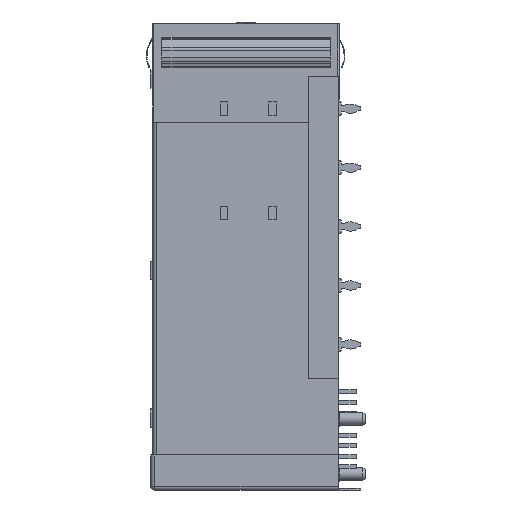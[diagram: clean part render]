
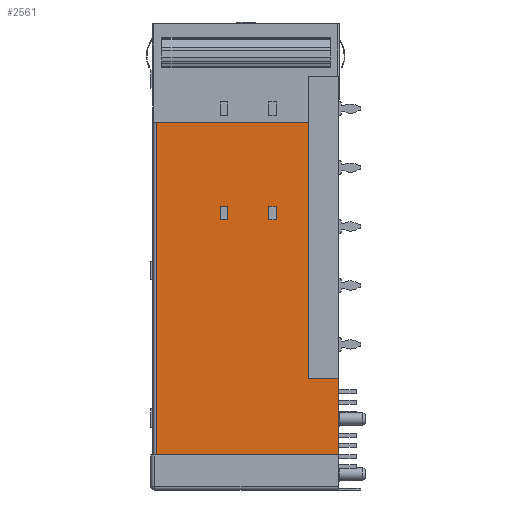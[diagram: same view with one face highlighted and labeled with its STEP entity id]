
A CAD part, left-side view. The second image highlights one B-rep face of the part: STEP entity #2561.
In plain terms, the highlighted planar face has unit normal (-1, 0, 0).
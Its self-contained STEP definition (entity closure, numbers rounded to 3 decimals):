
#634 = CARTESIAN_POINT ( 'NONE',  ( -21.5, 8.45, -24.8 ) ) ;
#1774 = ORIENTED_EDGE ( 'NONE', *, *, #22336, .T. ) ;
#2022 = EDGE_CURVE ( 'NONE', #36016, #33945, #20136, .T. ) ;
#2067 = EDGE_CURVE ( 'NONE', #29746, #41984, #7432, .T. ) ;
#2436 = EDGE_CURVE ( 'NONE', #50121, #36016, #53693, .T. ) ;
#2561 = ADVANCED_FACE ( 'NONE', ( #26103, #38871, #30809 ), #21440, .T. ) ;
#2937 = ORIENTED_EDGE ( 'NONE', *, *, #2067, .T. ) ;
#2948 = CARTESIAN_POINT ( 'NONE',  ( -21.5, 0., -63.25 ) ) ;
#3237 = CARTESIAN_POINT ( 'NONE',  ( -21.5, 4.1, -13.4 ) ) ;
#3588 = VERTEX_POINT ( 'NONE', #53776 ) ;
#5428 = CARTESIAN_POINT ( 'NONE',  ( -21.5, 9.45, -24.8 ) ) ;
#5451 = VERTEX_POINT ( 'NONE', #10644 ) ;
#5957 = CARTESIAN_POINT ( 'NONE',  ( -21.5, 9.45, -24.8 ) ) ;
#6202 = CARTESIAN_POINT ( 'NONE',  ( -21.5, 25.2, -58.5 ) ) ;
#6361 = DIRECTION ( 'NONE',  ( 0., 0., 1. ) ) ;
#7272 = DIRECTION ( 'NONE',  ( 0., 0., 1. ) ) ;
#7432 = LINE ( 'NONE', #34850, #48342 ) ;
#8641 = CARTESIAN_POINT ( 'NONE',  ( -21.5, 15., -24.8 ) ) ;
#10175 = VERTEX_POINT ( 'NONE', #54649 ) ;
#10644 = CARTESIAN_POINT ( 'NONE',  ( -21.5, 9.45, -26.6 ) ) ;
#10986 = EDGE_CURVE ( 'NONE', #26376, #29444, #46653, .T. ) ;
#10988 = CARTESIAN_POINT ( 'NONE',  ( -21.5, 15., -24.8 ) ) ;
#11019 = VERTEX_POINT ( 'NONE', #5428 ) ;
#11834 = AXIS2_PLACEMENT_3D ( 'NONE', #42476, #38534, #25573 ) ;
#12365 = DIRECTION ( 'NONE',  ( 0., -1., 0. ) ) ;
#12538 = DIRECTION ( 'NONE',  ( 0., 0., -1. ) ) ;
#13413 = EDGE_CURVE ( 'NONE', #33945, #51959, #38279, .T. ) ;
#14054 = VECTOR ( 'NONE', #12365, 1000. ) ;
#14774 = DIRECTION ( 'NONE',  ( 0., -1., 0. ) ) ;
#14868 = CARTESIAN_POINT ( 'NONE',  ( -21.5, 24.7, -58.5 ) ) ;
#15512 = VECTOR ( 'NONE', #14774, 1000. ) ;
#16361 = DIRECTION ( 'NONE',  ( 0., 0., 1. ) ) ;
#17318 = VECTOR ( 'NONE', #27051, 1000. ) ;
#17555 = CARTESIAN_POINT ( 'NONE',  ( -21.5, 24.7, -63.25 ) ) ;
#19316 = LINE ( 'NONE', #25251, #46733 ) ;
#19617 = CARTESIAN_POINT ( 'NONE',  ( -21.5, 16., -24.8 ) ) ;
#20136 = LINE ( 'NONE', #50783, #52373 ) ;
#21440 = PLANE ( 'NONE',  #11834 ) ;
#22336 = EDGE_CURVE ( 'NONE', #40830, #50121, #45703, .T. ) ;
#23094 = CARTESIAN_POINT ( 'NONE',  ( -21.5, 16., -24.8 ) ) ;
#23500 = EDGE_CURVE ( 'NONE', #54259, #3588, #44186, .T. ) ;
#24124 = ORIENTED_EDGE ( 'NONE', *, *, #10986, .T. ) ;
#25251 = CARTESIAN_POINT ( 'NONE',  ( -21.5, 9.45, -26.6 ) ) ;
#25573 = DIRECTION ( 'NONE',  ( 0., 0., 1. ) ) ;
#25882 = VECTOR ( 'NONE', #6361, 1000. ) ;
#26103 = FACE_BOUND ( 'NONE', #38751, .T. ) ;
#26376 = VERTEX_POINT ( 'NONE', #39324 ) ;
#26581 = DIRECTION ( 'NONE',  ( 0., 1., 0. ) ) ;
#26938 = CARTESIAN_POINT ( 'NONE',  ( -21.5, 0., -58.5 ) ) ;
#27020 = EDGE_LOOP ( 'NONE', ( #2937, #31762, #24124, #40532 ) ) ;
#27051 = DIRECTION ( 'NONE',  ( 0., 0., -1. ) ) ;
#28072 = CARTESIAN_POINT ( 'NONE',  ( -21.5, 4.1, -48.1 ) ) ;
#29444 = VERTEX_POINT ( 'NONE', #38161 ) ;
#29463 = ORIENTED_EDGE ( 'NONE', *, *, #51981, .F. ) ;
#29746 = VERTEX_POINT ( 'NONE', #23094 ) ;
#29967 = ORIENTED_EDGE ( 'NONE', *, *, #2022, .T. ) ;
#30088 = LINE ( 'NONE', #17555, #50231 ) ;
#30145 = DIRECTION ( 'NONE',  ( 0., -1., 0. ) ) ;
#30809 = FACE_OUTER_BOUND ( 'NONE', #35507, .T. ) ;
#30913 = CARTESIAN_POINT ( 'NONE',  ( -21.5, 16., -26.6 ) ) ;
#30956 = EDGE_CURVE ( 'NONE', #5451, #11019, #40190, .T. ) ;
#31762 = ORIENTED_EDGE ( 'NONE', *, *, #33099, .T. ) ;
#32065 = DIRECTION ( 'NONE',  ( 0., -1., 0. ) ) ;
#33099 = EDGE_CURVE ( 'NONE', #41984, #26376, #34743, .T. ) ;
#33354 = ORIENTED_EDGE ( 'NONE', *, *, #23500, .T. ) ;
#33945 = VERTEX_POINT ( 'NONE', #28072 ) ;
#34743 = LINE ( 'NONE', #8641, #55549 ) ;
#34810 = VECTOR ( 'NONE', #54116, 1000. ) ;
#34850 = CARTESIAN_POINT ( 'NONE',  ( -21.5, 16., -24.8 ) ) ;
#35190 = LINE ( 'NONE', #40316, #41210 ) ;
#35507 = EDGE_LOOP ( 'NONE', ( #29463, #54457, #1774, #44948, #29967, #45041 ) ) ;
#35992 = CARTESIAN_POINT ( 'NONE',  ( -21.5, 8.45, -24.8 ) ) ;
#36016 = VERTEX_POINT ( 'NONE', #54628 ) ;
#36635 = ORIENTED_EDGE ( 'NONE', *, *, #54983, .T. ) ;
#37394 = CARTESIAN_POINT ( 'NONE',  ( -21.5, 4.1, -7.1 ) ) ;
#37565 = CARTESIAN_POINT ( 'NONE',  ( -21.5, 25.2, -13.4 ) ) ;
#38161 = CARTESIAN_POINT ( 'NONE',  ( -21.5, 16., -26.6 ) ) ;
#38279 = LINE ( 'NONE', #37394, #46974 ) ;
#38288 = ORIENTED_EDGE ( 'NONE', *, *, #30956, .T. ) ;
#38534 = DIRECTION ( 'NONE',  ( -1., 0., 0. ) ) ;
#38751 = EDGE_LOOP ( 'NONE', ( #36635, #33354, #44595, #38288 ) ) ;
#38871 = FACE_BOUND ( 'NONE', #27020, .T. ) ;
#39324 = CARTESIAN_POINT ( 'NONE',  ( -21.5, 15., -26.6 ) ) ;
#40190 = LINE ( 'NONE', #5957, #34810 ) ;
#40316 = CARTESIAN_POINT ( 'NONE',  ( -21.5, 9.45, -24.8 ) ) ;
#40532 = ORIENTED_EDGE ( 'NONE', *, *, #53960, .T. ) ;
#40830 = VERTEX_POINT ( 'NONE', #14868 ) ;
#41210 = VECTOR ( 'NONE', #32065, 1000. ) ;
#41984 = VERTEX_POINT ( 'NONE', #10988 ) ;
#42262 = VECTOR ( 'NONE', #7272, 1000. ) ;
#42476 = CARTESIAN_POINT ( 'NONE',  ( -21.5, 0., -63.25 ) ) ;
#42738 = EDGE_CURVE ( 'NONE', #3588, #5451, #19316, .T. ) ;
#44186 = LINE ( 'NONE', #35992, #17318 ) ;
#44595 = ORIENTED_EDGE ( 'NONE', *, *, #42738, .T. ) ;
#44948 = ORIENTED_EDGE ( 'NONE', *, *, #2436, .T. ) ;
#45041 = ORIENTED_EDGE ( 'NONE', *, *, #13413, .T. ) ;
#45703 = LINE ( 'NONE', #6202, #15512 ) ;
#46653 = LINE ( 'NONE', #30913, #49343 ) ;
#46733 = VECTOR ( 'NONE', #50942, 1000. ) ;
#46974 = VECTOR ( 'NONE', #16361, 1000. ) ;
#48342 = VECTOR ( 'NONE', #30145, 1000. ) ;
#49343 = VECTOR ( 'NONE', #26581, 1000. ) ;
#50121 = VERTEX_POINT ( 'NONE', #26938 ) ;
#50231 = VECTOR ( 'NONE', #52040, 1000. ) ;
#50783 = CARTESIAN_POINT ( 'NONE',  ( -21.5, 0., -48.1 ) ) ;
#50942 = DIRECTION ( 'NONE',  ( 0., 1., 0. ) ) ;
#51959 = VERTEX_POINT ( 'NONE', #3237 ) ;
#51981 = EDGE_CURVE ( 'NONE', #10175, #51959, #52980, .T. ) ;
#52040 = DIRECTION ( 'NONE',  ( 0., 0., -1. ) ) ;
#52373 = VECTOR ( 'NONE', #54933, 1000. ) ;
#52774 = EDGE_CURVE ( 'NONE', #10175, #40830, #30088, .T. ) ;
#52980 = LINE ( 'NONE', #37565, #14054 ) ;
#53693 = LINE ( 'NONE', #2948, #42262 ) ;
#53776 = CARTESIAN_POINT ( 'NONE',  ( -21.5, 8.45, -26.6 ) ) ;
#53960 = EDGE_CURVE ( 'NONE', #29444, #29746, #54768, .T. ) ;
#54116 = DIRECTION ( 'NONE',  ( 0., 0., 1. ) ) ;
#54259 = VERTEX_POINT ( 'NONE', #634 ) ;
#54457 = ORIENTED_EDGE ( 'NONE', *, *, #52774, .T. ) ;
#54628 = CARTESIAN_POINT ( 'NONE',  ( -21.5, 0., -48.1 ) ) ;
#54649 = CARTESIAN_POINT ( 'NONE',  ( -21.5, 24.7, -13.4 ) ) ;
#54768 = LINE ( 'NONE', #19617, #25882 ) ;
#54933 = DIRECTION ( 'NONE',  ( 0., 1., 0. ) ) ;
#54983 = EDGE_CURVE ( 'NONE', #11019, #54259, #35190, .T. ) ;
#55549 = VECTOR ( 'NONE', #12538, 1000. ) ;
